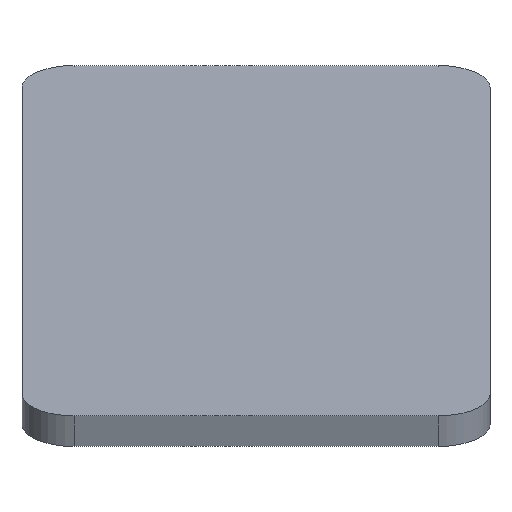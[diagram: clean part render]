
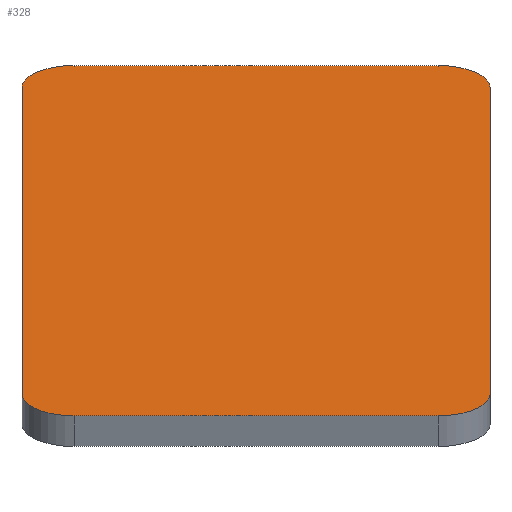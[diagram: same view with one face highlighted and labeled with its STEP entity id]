
A CAD part, top view. The second image highlights one B-rep face of the part: STEP entity #328.
In plain terms, the highlighted planar face has unit normal (0, 0.906, 0.423).
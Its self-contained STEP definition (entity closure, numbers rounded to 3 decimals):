
#60=CARTESIAN_POINT('',(-7.,370.028,60.003));
#61=VERTEX_POINT('',#60);
#62=CARTESIAN_POINT('',(7.,370.028,60.003));
#63=VERTEX_POINT('',#62);
#64=CARTESIAN_POINT('',(-7.,370.028,60.003));
#65=DIRECTION('',(1.,0.,-0.));
#66=VECTOR('',#65,14.);
#67=LINE('',#64,#66);
#68=EDGE_CURVE('',#61,#63,#67,.T.);
#110=CARTESIAN_POINT('',(9.,369.183,61.815));
#111=VERTEX_POINT('',#110);
#118=CARTESIAN_POINT('',(9.,357.35,87.192));
#119=VERTEX_POINT('',#118);
#120=CARTESIAN_POINT('',(9.,369.183,61.815));
#121=DIRECTION('',(0.,-0.423,0.906));
#122=VECTOR('',#121,28.);
#123=LINE('',#120,#122);
#124=EDGE_CURVE('',#111,#119,#123,.T.);
#150=CARTESIAN_POINT('',(7.,356.505,89.004));
#151=VERTEX_POINT('',#150);
#158=CARTESIAN_POINT('',(-7.,356.505,89.004));
#159=VERTEX_POINT('',#158);
#160=CARTESIAN_POINT('',(7.,356.505,89.004));
#161=DIRECTION('',(-1.,-0.,0.));
#162=VECTOR('',#161,14.);
#163=LINE('',#160,#162);
#164=EDGE_CURVE('',#151,#159,#163,.T.);
#180=CARTESIAN_POINT('',(-9.,357.35,87.192));
#181=VERTEX_POINT('',#180);
#182=CARTESIAN_POINT('',(-9.,369.183,61.815));
#183=VERTEX_POINT('',#182);
#184=CARTESIAN_POINT('',(-9.,357.35,87.192));
#185=DIRECTION('',(0.,0.423,-0.906));
#186=VECTOR('',#185,28.);
#187=LINE('',#184,#186);
#188=EDGE_CURVE('',#181,#183,#187,.T.);
#289=CARTESIAN_POINT('',(0.,326.921,152.446));
#290=DIRECTION('',(0.,-0.906,-0.423));
#291=DIRECTION('',(1.,0.,0.));
#292=AXIS2_PLACEMENT_3D('',#289,#290,#291);
#293=PLANE('',#292);
#294=ORIENTED_EDGE('',*,*,#124,.F.);
#295=CARTESIAN_POINT('',(7.,369.183,61.815));
#296=DIRECTION('',(0.,0.906,0.423));
#297=DIRECTION('',(0.,-0.423,0.906));
#298=AXIS2_PLACEMENT_3D('',#295,#296,#297);
#299=CIRCLE('',#298,2.);
#300=EDGE_CURVE('',#111,#63,#299,.T.);
#301=ORIENTED_EDGE('',*,*,#300,.T.);
#302=ORIENTED_EDGE('',*,*,#68,.F.);
#303=CARTESIAN_POINT('',(-7.,369.183,61.815));
#304=DIRECTION('',(0.,0.906,0.423));
#305=DIRECTION('',(0.,-0.423,0.906));
#306=AXIS2_PLACEMENT_3D('',#303,#304,#305);
#307=CIRCLE('',#306,2.);
#308=EDGE_CURVE('',#61,#183,#307,.T.);
#309=ORIENTED_EDGE('',*,*,#308,.T.);
#310=ORIENTED_EDGE('',*,*,#188,.F.);
#311=CARTESIAN_POINT('',(-7.,357.35,87.192));
#312=DIRECTION('',(0.,0.906,0.423));
#313=DIRECTION('',(0.,-0.423,0.906));
#314=AXIS2_PLACEMENT_3D('',#311,#312,#313);
#315=CIRCLE('',#314,2.);
#316=EDGE_CURVE('',#181,#159,#315,.T.);
#317=ORIENTED_EDGE('',*,*,#316,.T.);
#318=ORIENTED_EDGE('',*,*,#164,.F.);
#319=CARTESIAN_POINT('',(7.,357.35,87.192));
#320=DIRECTION('',(0.,0.906,0.423));
#321=DIRECTION('',(0.,-0.423,0.906));
#322=AXIS2_PLACEMENT_3D('',#319,#320,#321);
#323=CIRCLE('',#322,2.);
#324=EDGE_CURVE('',#151,#119,#323,.T.);
#325=ORIENTED_EDGE('',*,*,#324,.T.);
#326=EDGE_LOOP('',(#294,#301,#302,#309,#310,#317,#318,#325));
#327=FACE_BOUND('',#326,.T.);
#328=ADVANCED_FACE('',(#327),#293,.F.);
